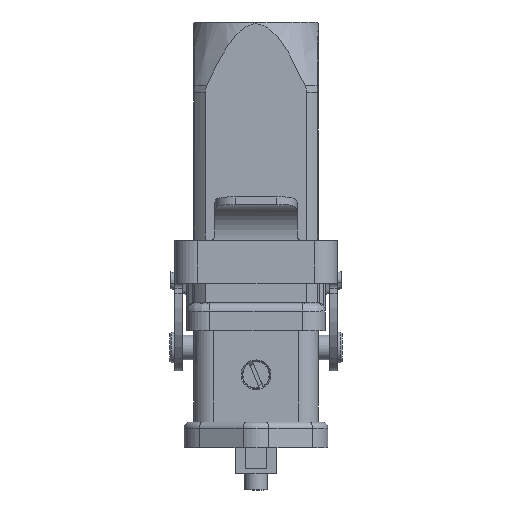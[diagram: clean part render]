
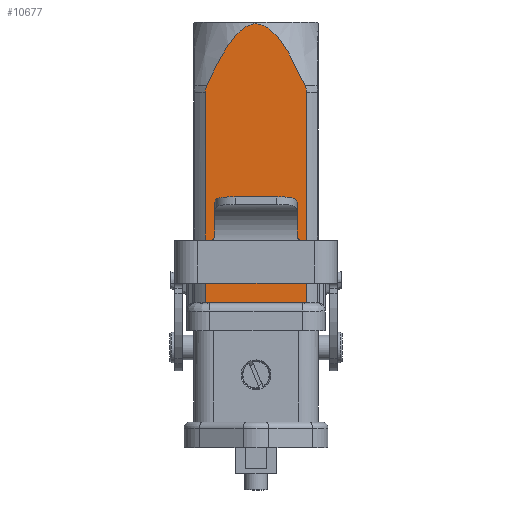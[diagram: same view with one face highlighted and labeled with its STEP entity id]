
A CAD part, left-side view. The second image highlights one B-rep face of the part: STEP entity #10677.
In plain terms, the highlighted planar face has unit normal (-1, 0, 0).
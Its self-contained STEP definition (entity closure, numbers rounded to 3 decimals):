
#9976=FACE_BOUND('',#14888,.T.);
#9977=FACE_BOUND('',#14889,.T.);
#9978=FACE_BOUND('',#14890,.T.);
#10677=ADVANCED_FACE('',(#9976,#9977,#9978),#12426,.T.);
#12426=PLANE('',#40959);
#14888=EDGE_LOOP('',(#17055));
#14889=EDGE_LOOP('',(#17056,#17057));
#14890=EDGE_LOOP('',(#17058,#17059,#17060,#17061,#17062,#17063));
#17055=ORIENTED_EDGE('',*,*,#28119,.T.);
#17056=ORIENTED_EDGE('',*,*,#28120,.F.);
#17057=ORIENTED_EDGE('',*,*,#28120,.T.);
#17058=ORIENTED_EDGE('',*,*,#28121,.T.);
#17059=ORIENTED_EDGE('',*,*,#28122,.T.);
#17060=ORIENTED_EDGE('',*,*,#28123,.T.);
#17061=ORIENTED_EDGE('',*,*,#28124,.T.);
#17062=ORIENTED_EDGE('',*,*,#28125,.T.);
#17063=ORIENTED_EDGE('',*,*,#28126,.T.);
#25323=VERTEX_POINT('',#49870);
#25324=VERTEX_POINT('',#49872);
#25325=VERTEX_POINT('',#49873);
#25326=VERTEX_POINT('',#49875);
#25327=VERTEX_POINT('',#49876);
#25328=VERTEX_POINT('',#49878);
#25329=VERTEX_POINT('',#49883);
#25330=VERTEX_POINT('',#49934);
#25331=VERTEX_POINT('',#49939);
#28119=EDGE_CURVE('',#25323,#25323,#33762,.T.);
#28120=EDGE_CURVE('',#25324,#25325,#34809,.T.);
#28121=EDGE_CURVE('',#25326,#25327,#34810,.T.);
#28122=EDGE_CURVE('',#25327,#25328,#34811,.T.);
#28123=EDGE_CURVE('',#25328,#25329,#32270,.T.);
#28124=EDGE_CURVE('',#25329,#25330,#32271,.T.);
#28125=EDGE_CURVE('',#25330,#25331,#32272,.T.);
#28126=EDGE_CURVE('',#25331,#25326,#32273,.T.);
#32270=B_SPLINE_CURVE_WITH_KNOTS('',3,(#49879,#49880,#49881,#49882),
 .UNSPECIFIED.,.F.,.F.,(4,4),(0.,1.),.UNSPECIFIED.);
#32271=B_SPLINE_CURVE_WITH_KNOTS('',3,(#49884,#49885,#49886,#49887,#49888,
#49889,#49890,#49891,#49892,#49893,#49894,#49895,#49896,#49897,#49898,#49899,
#49900,#49901,#49902,#49903,#49904,#49905,#49906,#49907,#49908,#49909,#49910,
#49911,#49912,#49913,#49914,#49915,#49916,#49917,#49918,#49919,#49920,#49921,
#49922,#49923,#49924,#49925,#49926,#49927,#49928,#49929,#49930,#49931,#49932,
#49933),.UNSPECIFIED.,.F.,.F.,(4,1,1,1,1,1,2,2,1,1,1,1,2,2,1,1,2,2,2,2,
1,2,2,1,1,1,2,2,1,1,1,2,2,4),(0.,0.125,0.188,0.219,
0.234,0.242,0.246,0.25,
0.313,0.344,0.359,0.367,
0.371,0.375,0.438,0.469,
0.484,0.5,0.563,0.594,
0.609,0.617,0.625,0.656,
0.672,0.68,0.684,0.688,
0.719,0.734,0.742,0.746,
0.75,1.),.UNSPECIFIED.);
#32272=B_SPLINE_CURVE_WITH_KNOTS('',3,(#49935,#49936,#49937,#49938),
 .UNSPECIFIED.,.F.,.F.,(4,4),(0.,1.),.UNSPECIFIED.);
#32273=B_SPLINE_CURVE_WITH_KNOTS('',3,(#49940,#49941,#49942,#49943),
 .UNSPECIFIED.,.F.,.F.,(4,4),(0.,1.),.UNSPECIFIED.);
#33762=CIRCLE('',#40958,2.9);
#34809=LINE('',#49871,#36953);
#34810=LINE('',#49874,#36954);
#34811=LINE('',#49877,#36955);
#36953=VECTOR('',#43190,1.);
#36954=VECTOR('',#43191,1.);
#36955=VECTOR('',#43192,1.);
#40958=AXIS2_PLACEMENT_3D('',#49869,#43188,#43189);
#40959=AXIS2_PLACEMENT_3D('',#49944,#43193,#43194);
#43188=DIRECTION('',(1.,0.,0.));
#43189=DIRECTION('',(0.,0.,1.));
#43190=DIRECTION('',(0.,0.,1.));
#43191=DIRECTION('',(0.,-1.,0.));
#43192=DIRECTION('',(0.,0.,1.));
#43193=DIRECTION('',(-1.,0.,0.));
#43194=DIRECTION('',(0.,-1.,0.));
#49869=CARTESIAN_POINT('',(-12.1,0.,34.205));
#49870=CARTESIAN_POINT('',(-12.1,0.001,37.105));
#49871=CARTESIAN_POINT('',(-12.1,0.22,44.179));
#49872=CARTESIAN_POINT('',(-12.1,0.22,44.179));
#49873=CARTESIAN_POINT('',(-12.1,0.22,44.215));
#49874=CARTESIAN_POINT('',(-12.1,9.844,25.302));
#49875=CARTESIAN_POINT('',(-12.1,9.844,25.302));
#49876=CARTESIAN_POINT('',(-12.1,-9.849,25.308));
#49877=CARTESIAN_POINT('',(-12.1,-9.849,25.308));
#49878=CARTESIAN_POINT('',(-12.1,-9.837,66.128));
#49879=CARTESIAN_POINT('',(-12.1,-9.837,66.128));
#49880=CARTESIAN_POINT('',(-12.1,-9.835,66.557));
#49881=CARTESIAN_POINT('',(-12.1,-9.715,67.083));
#49882=CARTESIAN_POINT('',(-12.1,-9.546,67.463));
#49883=CARTESIAN_POINT('',(-12.1,-9.547,67.463));
#49884=CARTESIAN_POINT('',(-12.1,-9.547,67.463));
#49885=CARTESIAN_POINT('',(-12.1,-8.846,69.033));
#49886=CARTESIAN_POINT('',(-12.1,-7.826,71.151));
#49887=CARTESIAN_POINT('',(-12.1,-6.693,73.203));
#49888=CARTESIAN_POINT('',(-12.1,-6.14,74.125));
#49889=CARTESIAN_POINT('',(-12.1,-5.867,74.559));
#49890=CARTESIAN_POINT('',(-12.1,-5.732,74.77));
#49891=CARTESIAN_POINT('',(-12.1,-5.674,74.859));
#49892=CARTESIAN_POINT('',(-12.1,-5.635,74.918));
#49893=CARTESIAN_POINT('',(-12.1,-5.624,74.935));
#49894=CARTESIAN_POINT('',(-12.1,-5.164,75.634));
#49895=CARTESIAN_POINT('',(-12.1,-4.526,76.508));
#49896=CARTESIAN_POINT('',(-12.1,-3.801,77.335));
#49897=CARTESIAN_POINT('',(-12.1,-3.444,77.699));
#49898=CARTESIAN_POINT('',(-12.1,-3.267,77.869));
#49899=CARTESIAN_POINT('',(-12.1,-3.191,77.94));
#49900=CARTESIAN_POINT('',(-12.1,-3.141,77.986));
#49901=CARTESIAN_POINT('',(-12.1,-3.125,78.));
#49902=CARTESIAN_POINT('',(-12.1,-2.539,78.526));
#49903=CARTESIAN_POINT('',(-12.1,-1.717,79.073));
#49904=CARTESIAN_POINT('',(-12.1,-0.767,79.37));
#49905=CARTESIAN_POINT('',(-12.1,-0.362,79.424));
#49906=CARTESIAN_POINT('',(-12.1,-0.092,79.443));
#49907=CARTESIAN_POINT('',(-12.1,0.023,79.446));
#49908=CARTESIAN_POINT('',(-12.1,0.793,79.41));
#49909=CARTESIAN_POINT('',(-12.1,1.417,79.206));
#49910=CARTESIAN_POINT('',(-12.1,2.363,78.639));
#49911=CARTESIAN_POINT('',(-12.1,2.636,78.437));
#49912=CARTESIAN_POINT('',(-12.1,3.056,78.083));
#49913=CARTESIAN_POINT('',(-12.1,3.268,77.894));
#49914=CARTESIAN_POINT('',(-12.1,3.48,77.685));
#49915=CARTESIAN_POINT('',(-12.1,3.622,77.542));
#49916=CARTESIAN_POINT('',(-12.1,3.705,77.455));
#49917=CARTESIAN_POINT('',(-12.1,3.998,77.144));
#49918=CARTESIAN_POINT('',(-12.1,4.35,76.736));
#49919=CARTESIAN_POINT('',(-12.1,4.766,76.199));
#49920=CARTESIAN_POINT('',(-12.1,4.975,75.916));
#49921=CARTESIAN_POINT('',(-12.1,5.064,75.791));
#49922=CARTESIAN_POINT('',(-12.1,5.124,75.708));
#49923=CARTESIAN_POINT('',(-12.1,5.163,75.653));
#49924=CARTESIAN_POINT('',(-12.1,5.355,75.38));
#49925=CARTESIAN_POINT('',(-12.1,5.616,74.992));
#49926=CARTESIAN_POINT('',(-12.1,5.931,74.497));
#49927=CARTESIAN_POINT('',(-12.1,6.09,74.24));
#49928=CARTESIAN_POINT('',(-12.1,6.159,74.127));
#49929=CARTESIAN_POINT('',(-12.1,6.205,74.051));
#49930=CARTESIAN_POINT('',(-12.1,6.235,74.002));
#49931=CARTESIAN_POINT('',(-12.1,7.287,72.26));
#49932=CARTESIAN_POINT('',(-12.1,8.392,70.087));
#49933=CARTESIAN_POINT('',(-12.1,9.566,67.457));
#49934=CARTESIAN_POINT('',(-12.1,9.566,67.457));
#49935=CARTESIAN_POINT('',(-12.1,9.566,67.457));
#49936=CARTESIAN_POINT('',(-12.1,9.742,67.061));
#49937=CARTESIAN_POINT('',(-12.1,9.839,66.616));
#49938=CARTESIAN_POINT('',(-12.1,9.856,66.122));
#49939=CARTESIAN_POINT('',(-12.1,9.856,66.122));
#49940=CARTESIAN_POINT('',(-12.1,9.856,66.122));
#49941=CARTESIAN_POINT('',(-12.1,9.852,52.515));
#49942=CARTESIAN_POINT('',(-12.1,9.848,38.909));
#49943=CARTESIAN_POINT('',(-12.1,9.844,25.302));
#49944=CARTESIAN_POINT('',(-12.1,11.884,19.801));
